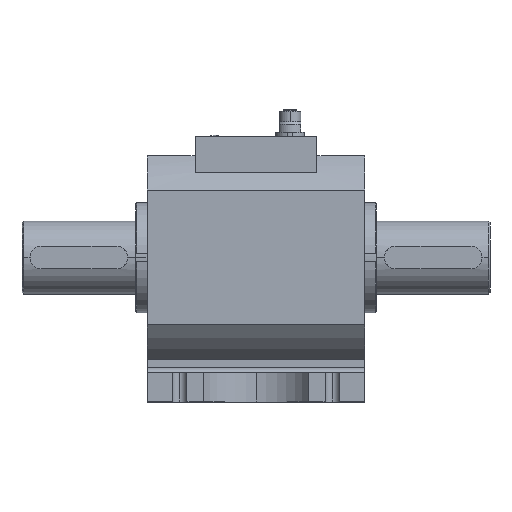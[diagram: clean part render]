
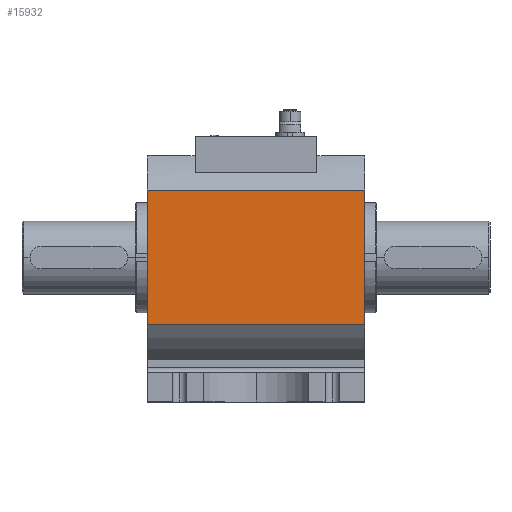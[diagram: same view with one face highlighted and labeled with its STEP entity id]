
A CAD part, top view. The second image highlights one B-rep face of the part: STEP entity #15932.
In plain terms, the highlighted planar face has unit normal (0, 0, 1).
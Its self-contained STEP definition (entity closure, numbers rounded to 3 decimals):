
#846 = DIRECTION ( 'NONE',  ( 0., 0., -1. ) ) ;
#1994 = DIRECTION ( 'NONE',  ( -1., 0., 0. ) ) ;
#2044 = CARTESIAN_POINT ( 'NONE',  ( 67., 41.458, 62.5 ) ) ;
#3586 = LINE ( 'NONE', #4990, #19121 ) ;
#3774 = DIRECTION ( 'NONE',  ( -1., 0., 0. ) ) ;
#4990 = CARTESIAN_POINT ( 'NONE',  ( -67., 41.458, 62.5 ) ) ;
#5132 = LINE ( 'NONE', #22773, #16152 ) ;
#6072 = DIRECTION ( 'NONE',  ( -1., 0., 0. ) ) ;
#7221 = DIRECTION ( 'NONE',  ( 0., -1., 0. ) ) ;
#8793 = CARTESIAN_POINT ( 'NONE',  ( 67., -41.458, 62.5 ) ) ;
#9137 = LINE ( 'NONE', #2044, #15721 ) ;
#10675 = DIRECTION ( 'NONE',  ( 0., -1., 0. ) ) ;
#10711 = ORIENTED_EDGE ( 'NONE', *, *, #18621, .F. ) ;
#12386 = CARTESIAN_POINT ( 'NONE',  ( 67., 41.458, 62.5 ) ) ;
#13580 = EDGE_CURVE ( 'NONE', #18126, #18418, #9137, .T. ) ;
#13716 = ORIENTED_EDGE ( 'NONE', *, *, #13580, .T. ) ;
#14410 = EDGE_CURVE ( 'NONE', #18126, #21534, #5132, .T. ) ;
#14905 = EDGE_CURVE ( 'NONE', #18418, #21993, #3586, .T. ) ;
#15721 = VECTOR ( 'NONE', #3774, 1000. ) ;
#15932 = ADVANCED_FACE ( 'NONE', ( #17082 ), #18592, .F. ) ;
#16131 = ORIENTED_EDGE ( 'NONE', *, *, #14905, .T. ) ;
#16152 = VECTOR ( 'NONE', #7221, 1000. ) ;
#16161 = ORIENTED_EDGE ( 'NONE', *, *, #14410, .F. ) ;
#16963 = EDGE_LOOP ( 'NONE', ( #16131, #10711, #16161, #13716 ) ) ;
#17082 = FACE_OUTER_BOUND ( 'NONE', #16963, .T. ) ;
#17107 = CARTESIAN_POINT ( 'NONE',  ( -67., 41.458, 62.5 ) ) ;
#17892 = CARTESIAN_POINT ( 'NONE',  ( 67., -41.458, 62.5 ) ) ;
#18126 = VERTEX_POINT ( 'NONE', #12386 ) ;
#18418 = VERTEX_POINT ( 'NONE', #17107 ) ;
#18483 = CARTESIAN_POINT ( 'NONE',  ( 67., 41.458, 62.5 ) ) ;
#18592 = PLANE ( 'NONE',  #19140 ) ;
#18621 = EDGE_CURVE ( 'NONE', #21534, #21993, #19639, .T. ) ;
#19121 = VECTOR ( 'NONE', #10675, 1000. ) ;
#19140 = AXIS2_PLACEMENT_3D ( 'NONE', #18483, #846, #6072 ) ;
#19639 = LINE ( 'NONE', #17892, #22763 ) ;
#21534 = VERTEX_POINT ( 'NONE', #8793 ) ;
#21993 = VERTEX_POINT ( 'NONE', #22568 ) ;
#22568 = CARTESIAN_POINT ( 'NONE',  ( -67., -41.458, 62.5 ) ) ;
#22763 = VECTOR ( 'NONE', #1994, 1000. ) ;
#22773 = CARTESIAN_POINT ( 'NONE',  ( 67., 41.458, 62.5 ) ) ;
